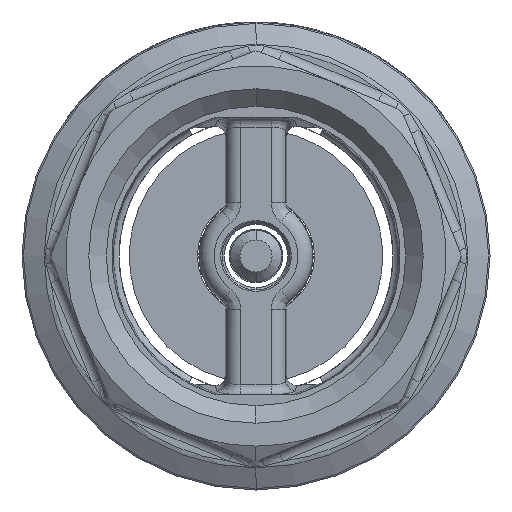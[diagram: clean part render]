
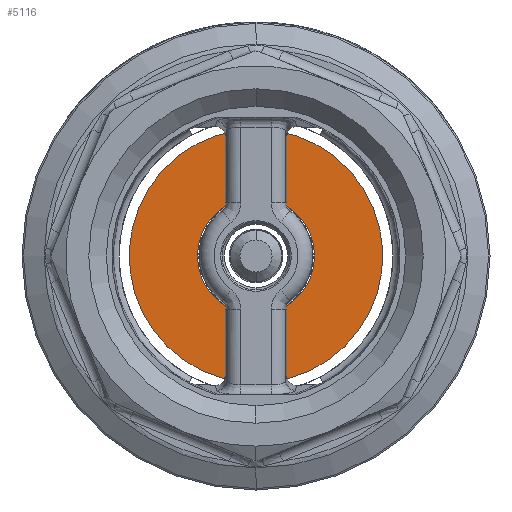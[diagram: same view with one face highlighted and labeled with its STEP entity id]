
A CAD part, front view. The second image highlights one B-rep face of the part: STEP entity #5116.
In plain terms, the highlighted planar face has unit normal (0, -1, 0).
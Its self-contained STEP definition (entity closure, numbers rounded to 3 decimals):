
#346 = CARTESIAN_POINT ( 'NONE',  ( 6., -42.991, 0. ) ) ;
#469 = VERTEX_POINT ( 'NONE', #2547 ) ;
#1042 = CARTESIAN_POINT ( 'NONE',  ( 0., -42.991, 0. ) ) ;
#1674 = DIRECTION ( 'NONE',  ( 0., 0., -1. ) ) ;
#2077 = FACE_BOUND ( 'NONE', #13581, .T. ) ;
#2125 = ORIENTED_EDGE ( 'NONE', *, *, #3075, .F. ) ;
#2164 = CIRCLE ( 'NONE', #9581, 0.5 ) ;
#2364 = DIRECTION ( 'NONE',  ( 0., 0., -1. ) ) ;
#2547 = CARTESIAN_POINT ( 'NONE',  ( -1.508, -42.991, 12.686 ) ) ;
#3075 = EDGE_CURVE ( 'NONE', #13901, #11333, #16021, .T. ) ;
#3423 = CIRCLE ( 'NONE', #9970, 13. ) ;
#5116 = ADVANCED_FACE ( 'NONE', ( #11539, #2077 ), #8196, .T. ) ;
#5331 = CIRCLE ( 'NONE', #15558, 2. ) ;
#5534 = CARTESIAN_POINT ( 'NONE',  ( -1.884, -42.991, 12.357 ) ) ;
#6022 = ORIENTED_EDGE ( 'NONE', *, *, #10175, .T. ) ;
#6146 = ORIENTED_EDGE ( 'NONE', *, *, #8541, .F. ) ;
#6782 = DIRECTION ( 'NONE',  ( 0., -1., 0. ) ) ;
#6852 = DIRECTION ( 'NONE',  ( 0., 0., -1. ) ) ;
#6873 = CARTESIAN_POINT ( 'NONE',  ( 0., -42.991, 0. ) ) ;
#7194 = VERTEX_POINT ( 'NONE', #8007 ) ;
#7310 = AXIS2_PLACEMENT_3D ( 'NONE', #346, #9454, #1674 ) ;
#7453 = VERTEX_POINT ( 'NONE', #8454 ) ;
#7553 = CIRCLE ( 'NONE', #12057, 6. ) ;
#7670 = CARTESIAN_POINT ( 'NONE',  ( 1.884, -42.991, 12.357 ) ) ;
#7744 = DIRECTION ( 'NONE',  ( 0., 1., 0. ) ) ;
#7889 = CARTESIAN_POINT ( 'NONE',  ( 0., -42.991, -6. ) ) ;
#8007 = CARTESIAN_POINT ( 'NONE',  ( -1.96, -42.991, 12.851 ) ) ;
#8144 = DIRECTION ( 'NONE',  ( 0., 0., -1. ) ) ;
#8196 = PLANE ( 'NONE',  #7310 ) ;
#8454 = CARTESIAN_POINT ( 'NONE',  ( 1.508, -42.991, 12.686 ) ) ;
#8541 = EDGE_CURVE ( 'NONE', #11333, #13901, #7553, .T. ) ;
#8921 = ORIENTED_EDGE ( 'NONE', *, *, #12051, .T. ) ;
#8945 = DIRECTION ( 'NONE',  ( 0., 0., -1. ) ) ;
#9205 = AXIS2_PLACEMENT_3D ( 'NONE', #1042, #10109, #2364 ) ;
#9454 = DIRECTION ( 'NONE',  ( 0., -1., 0. ) ) ;
#9456 = EDGE_CURVE ( 'NONE', #7453, #469, #5331, .T. ) ;
#9581 = AXIS2_PLACEMENT_3D ( 'NONE', #7670, #16329, #8945 ) ;
#9970 = AXIS2_PLACEMENT_3D ( 'NONE', #14229, #6782, #15465 ) ;
#10109 = DIRECTION ( 'NONE',  ( 0., -1., 0. ) ) ;
#10175 = EDGE_CURVE ( 'NONE', #7194, #10913, #3423, .T. ) ;
#10518 = ORIENTED_EDGE ( 'NONE', *, *, #11755, .T. ) ;
#10913 = VERTEX_POINT ( 'NONE', #12680 ) ;
#10937 = AXIS2_PLACEMENT_3D ( 'NONE', #5534, #14303, #6852 ) ;
#11333 = VERTEX_POINT ( 'NONE', #14997 ) ;
#11539 = FACE_OUTER_BOUND ( 'NONE', #13189, .T. ) ;
#11755 = EDGE_CURVE ( 'NONE', #10913, #7453, #2164, .T. ) ;
#12051 = EDGE_CURVE ( 'NONE', #469, #7194, #13715, .T. ) ;
#12057 = AXIS2_PLACEMENT_3D ( 'NONE', #6873, #15554, #8144 ) ;
#12680 = CARTESIAN_POINT ( 'NONE',  ( 1.96, -42.991, 12.851 ) ) ;
#13186 = ORIENTED_EDGE ( 'NONE', *, *, #9456, .T. ) ;
#13189 = EDGE_LOOP ( 'NONE', ( #13186, #8921, #6022, #10518 ) ) ;
#13581 = EDGE_LOOP ( 'NONE', ( #2125, #6146 ) ) ;
#13715 = CIRCLE ( 'NONE', #10937, 0.5 ) ;
#13901 = VERTEX_POINT ( 'NONE', #7889 ) ;
#14229 = CARTESIAN_POINT ( 'NONE',  ( 0., -42.991, 0. ) ) ;
#14303 = DIRECTION ( 'NONE',  ( 0., -1., 0. ) ) ;
#14997 = CARTESIAN_POINT ( 'NONE',  ( 0., -42.991, 6. ) ) ;
#15164 = CARTESIAN_POINT ( 'NONE',  ( 0., -42.991, 14. ) ) ;
#15465 = DIRECTION ( 'NONE',  ( 0., 0., -1. ) ) ;
#15554 = DIRECTION ( 'NONE',  ( 0., -1., 0. ) ) ;
#15558 = AXIS2_PLACEMENT_3D ( 'NONE', #15164, #7744, #16414 ) ;
#16021 = CIRCLE ( 'NONE', #9205, 6. ) ;
#16329 = DIRECTION ( 'NONE',  ( 0., -1., 0. ) ) ;
#16414 = DIRECTION ( 'NONE',  ( 0., 0., -1. ) ) ;
